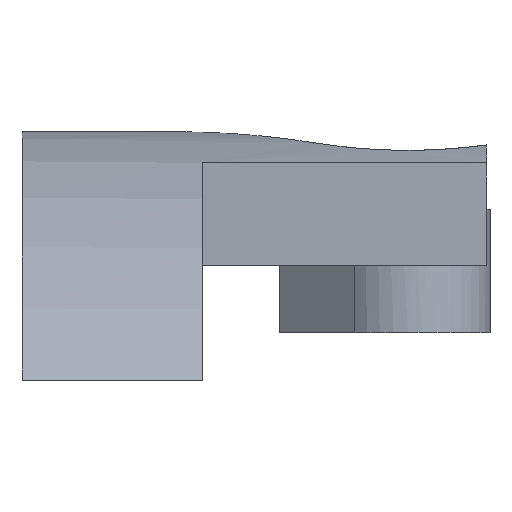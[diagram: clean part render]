
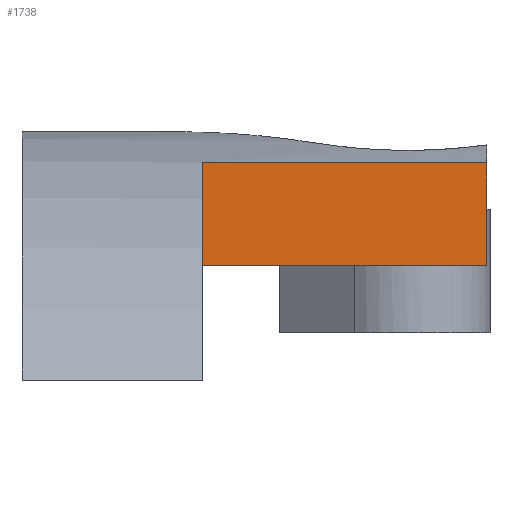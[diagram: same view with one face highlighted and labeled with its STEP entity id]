
A CAD part, front view. The second image highlights one B-rep face of the part: STEP entity #1738.
In plain terms, the highlighted planar face has unit normal (0, -1, 0).
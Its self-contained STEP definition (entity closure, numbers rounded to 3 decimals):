
#33 = CYLINDRICAL_SURFACE('',#34,18.85);
#34 = AXIS2_PLACEMENT_3D('',#35,#36,#37);
#35 = CARTESIAN_POINT('',(90.3,0.,0.));
#36 = DIRECTION('',(1.,0.,0.));
#37 = DIRECTION('',(-0.,0.,1.));
#84 = VERTEX_POINT('',#85);
#85 = CARTESIAN_POINT('',(96.,-6.,17.87));
#99 = PLANE('',#100);
#100 = AXIS2_PLACEMENT_3D('',#101,#102,#103);
#101 = CARTESIAN_POINT('',(96.,0.,0.));
#102 = DIRECTION('',(1.,0.,0.));
#103 = DIRECTION('',(-0.,0.,1.));
#111 = EDGE_CURVE('',#84,#112,#114,.T.);
#112 = VERTEX_POINT('',#113);
#113 = CARTESIAN_POINT('',(105.,-6.,17.87));
#114 = SURFACE_CURVE('',#115,(#119,#125),.PCURVE_S1.);
#115 = LINE('',#116,#117);
#116 = CARTESIAN_POINT('',(96.,-6.,17.87));
#117 = VECTOR('',#118,1.);
#118 = DIRECTION('',(1.,0.,0.));
#119 = PCURVE('',#33,#120);
#120 = DEFINITIONAL_REPRESENTATION('',(#121),#124);
#121 = B_SPLINE_CURVE_WITH_KNOTS('',1,(#122,#123),.UNSPECIFIED.,.F.,.F.,
  (2,2),(0.,9.),.PIECEWISE_BEZIER_KNOTS.);
#122 = CARTESIAN_POINT('',(6.607,5.7));
#123 = CARTESIAN_POINT('',(6.607,14.7));
#124 = ( GEOMETRIC_REPRESENTATION_CONTEXT(2) 
PARAMETRIC_REPRESENTATION_CONTEXT() REPRESENTATION_CONTEXT('2D SPACE',''
  ) );
#125 = PCURVE('',#126,#131);
#126 = PLANE('',#127);
#127 = AXIS2_PLACEMENT_3D('',#128,#129,#130);
#128 = CARTESIAN_POINT('',(96.,-6.,0.));
#129 = DIRECTION('',(-0.,1.,0.));
#130 = DIRECTION('',(0.,0.,1.));
#131 = DEFINITIONAL_REPRESENTATION('',(#132),#135);
#132 = B_SPLINE_CURVE_WITH_KNOTS('',1,(#133,#134),.UNSPECIFIED.,.F.,.F.,
  (2,2),(0.,9.),.PIECEWISE_BEZIER_KNOTS.);
#133 = CARTESIAN_POINT('',(17.87,0.));
#134 = CARTESIAN_POINT('',(17.87,9.));
#135 = ( GEOMETRIC_REPRESENTATION_CONTEXT(2) 
PARAMETRIC_REPRESENTATION_CONTEXT() REPRESENTATION_CONTEXT('2D SPACE',''
  ) );
#153 = PLANE('',#154);
#154 = AXIS2_PLACEMENT_3D('',#155,#156,#157);
#155 = CARTESIAN_POINT('',(105.,0.,0.));
#156 = DIRECTION('',(1.,0.,0.));
#157 = DIRECTION('',(-0.,0.,1.));
#580 = CYLINDRICAL_SURFACE('',#581,15.8);
#581 = AXIS2_PLACEMENT_3D('',#582,#583,#584);
#582 = CARTESIAN_POINT('',(89.3,0.,0.));
#583 = DIRECTION('',(1.,0.,0.));
#584 = DIRECTION('',(-0.,0.,1.));
#662 = VERTEX_POINT('',#663);
#663 = CARTESIAN_POINT('',(96.,-6.,14.616));
#684 = EDGE_CURVE('',#662,#685,#687,.T.);
#685 = VERTEX_POINT('',#686);
#686 = CARTESIAN_POINT('',(105.,-6.,14.616));
#687 = SURFACE_CURVE('',#688,(#692,#698),.PCURVE_S1.);
#688 = LINE('',#689,#690);
#689 = CARTESIAN_POINT('',(95.,-6.,14.616));
#690 = VECTOR('',#691,1.);
#691 = DIRECTION('',(1.,0.,0.));
#692 = PCURVE('',#580,#693);
#693 = DEFINITIONAL_REPRESENTATION('',(#694),#697);
#694 = B_SPLINE_CURVE_WITH_KNOTS('',1,(#695,#696),.UNSPECIFIED.,.F.,.F.,
  (2,2),(1.,10.),.PIECEWISE_BEZIER_KNOTS.);
#695 = CARTESIAN_POINT('',(6.673,6.7));
#696 = CARTESIAN_POINT('',(6.673,15.7));
#697 = ( GEOMETRIC_REPRESENTATION_CONTEXT(2) 
PARAMETRIC_REPRESENTATION_CONTEXT() REPRESENTATION_CONTEXT('2D SPACE',''
  ) );
#698 = PCURVE('',#126,#699);
#699 = DEFINITIONAL_REPRESENTATION('',(#700),#703);
#700 = B_SPLINE_CURVE_WITH_KNOTS('',1,(#701,#702),.UNSPECIFIED.,.F.,.F.,
  (2,2),(1.,10.),.PIECEWISE_BEZIER_KNOTS.);
#701 = CARTESIAN_POINT('',(14.616,0.));
#702 = CARTESIAN_POINT('',(14.616,9.));
#703 = ( GEOMETRIC_REPRESENTATION_CONTEXT(2) 
PARAMETRIC_REPRESENTATION_CONTEXT() REPRESENTATION_CONTEXT('2D SPACE',''
  ) );
#1714 = EDGE_CURVE('',#685,#112,#1715,.T.);
#1715 = SURFACE_CURVE('',#1716,(#1720,#1727),.PCURVE_S1.);
#1716 = LINE('',#1717,#1718);
#1717 = CARTESIAN_POINT('',(105.,-6.,0.));
#1718 = VECTOR('',#1719,1.);
#1719 = DIRECTION('',(0.,0.,1.));
#1720 = PCURVE('',#153,#1721);
#1721 = DEFINITIONAL_REPRESENTATION('',(#1722),#1726);
#1722 = LINE('',#1723,#1724);
#1723 = CARTESIAN_POINT('',(0.,6.));
#1724 = VECTOR('',#1725,1.);
#1725 = DIRECTION('',(1.,0.));
#1726 = ( GEOMETRIC_REPRESENTATION_CONTEXT(2) 
PARAMETRIC_REPRESENTATION_CONTEXT() REPRESENTATION_CONTEXT('2D SPACE',''
  ) );
#1727 = PCURVE('',#126,#1728);
#1728 = DEFINITIONAL_REPRESENTATION('',(#1729),#1733);
#1729 = LINE('',#1730,#1731);
#1730 = CARTESIAN_POINT('',(0.,9.));
#1731 = VECTOR('',#1732,1.);
#1732 = DIRECTION('',(1.,0.));
#1733 = ( GEOMETRIC_REPRESENTATION_CONTEXT(2) 
PARAMETRIC_REPRESENTATION_CONTEXT() REPRESENTATION_CONTEXT('2D SPACE',''
  ) );
#1738 = ADVANCED_FACE('',(#1739),#126,.F.);
#1739 = FACE_BOUND('',#1740,.F.);
#1740 = EDGE_LOOP('',(#1741,#1742,#1743,#1764));
#1741 = ORIENTED_EDGE('',*,*,#1714,.F.);
#1742 = ORIENTED_EDGE('',*,*,#684,.F.);
#1743 = ORIENTED_EDGE('',*,*,#1744,.T.);
#1744 = EDGE_CURVE('',#662,#84,#1745,.T.);
#1745 = SURFACE_CURVE('',#1746,(#1750,#1757),.PCURVE_S1.);
#1746 = LINE('',#1747,#1748);
#1747 = CARTESIAN_POINT('',(96.,-6.,0.));
#1748 = VECTOR('',#1749,1.);
#1749 = DIRECTION('',(0.,0.,1.));
#1750 = PCURVE('',#126,#1751);
#1751 = DEFINITIONAL_REPRESENTATION('',(#1752),#1756);
#1752 = LINE('',#1753,#1754);
#1753 = CARTESIAN_POINT('',(0.,0.));
#1754 = VECTOR('',#1755,1.);
#1755 = DIRECTION('',(1.,0.));
#1756 = ( GEOMETRIC_REPRESENTATION_CONTEXT(2) 
PARAMETRIC_REPRESENTATION_CONTEXT() REPRESENTATION_CONTEXT('2D SPACE',''
  ) );
#1757 = PCURVE('',#99,#1758);
#1758 = DEFINITIONAL_REPRESENTATION('',(#1759),#1763);
#1759 = LINE('',#1760,#1761);
#1760 = CARTESIAN_POINT('',(0.,6.));
#1761 = VECTOR('',#1762,1.);
#1762 = DIRECTION('',(1.,0.));
#1763 = ( GEOMETRIC_REPRESENTATION_CONTEXT(2) 
PARAMETRIC_REPRESENTATION_CONTEXT() REPRESENTATION_CONTEXT('2D SPACE',''
  ) );
#1764 = ORIENTED_EDGE('',*,*,#111,.T.);
